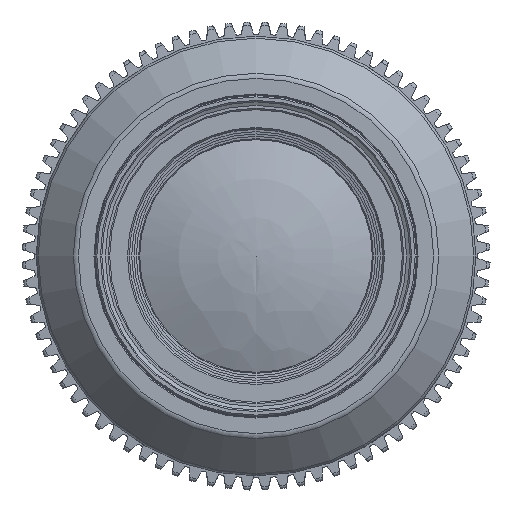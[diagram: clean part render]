
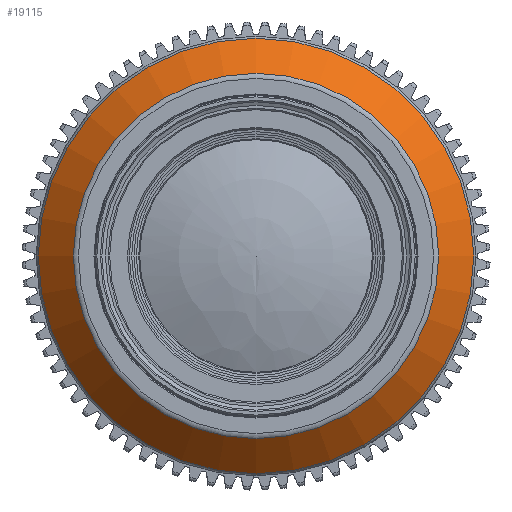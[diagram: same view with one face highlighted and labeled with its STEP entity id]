
A CAD part, left-side view. The second image highlights one B-rep face of the part: STEP entity #19115.
In plain terms, the highlighted conical face has half-angle 45 degrees and reference radius 30.507 mm.
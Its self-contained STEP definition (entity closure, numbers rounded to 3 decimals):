
#19115=ADVANCED_FACE('',(#23285,#23286),#20310,.T.);
#20310=CONICAL_SURFACE('',#43094,30.507,45.);
#23285=FACE_BOUND('',#23938,.T.);
#23286=FACE_BOUND('',#23939,.T.);
#23938=EDGE_LOOP('',(#29066));
#23939=EDGE_LOOP('',(#29067));
#29066=ORIENTED_EDGE('',*,*,#39531,.F.);
#29067=ORIENTED_EDGE('',*,*,#39532,.T.);
#36246=VERTEX_POINT('',#78523);
#36247=VERTEX_POINT('',#78526);
#39531=EDGE_CURVE('',#36246,#36246,#41535,.T.);
#39532=EDGE_CURVE('',#36247,#36247,#41536,.T.);
#41535=CIRCLE('',#43091,25.593);
#41536=CIRCLE('',#43093,30.507);
#43091=AXIS2_PLACEMENT_3D('',#78522,#46686,#46687);
#43093=AXIS2_PLACEMENT_3D('',#78525,#46690,#46691);
#43094=AXIS2_PLACEMENT_3D('',#78527,#46692,#46693);
#46686=DIRECTION('',(-1.,0.,0.));
#46687=DIRECTION('',(0.,0.,1.));
#46690=DIRECTION('',(-1.,0.,0.));
#46691=DIRECTION('',(0.,0.,1.));
#46692=DIRECTION('',(1.,0.,0.));
#46693=DIRECTION('',(0.,0.,-1.));
#78522=CARTESIAN_POINT('',(-5.589,0.,0.));
#78523=CARTESIAN_POINT('',(-5.589,0.,25.593));
#78525=CARTESIAN_POINT('',(-0.675,0.,0.));
#78526=CARTESIAN_POINT('',(-0.675,0.,30.507));
#78527=CARTESIAN_POINT('',(-0.675,0.,0.));
